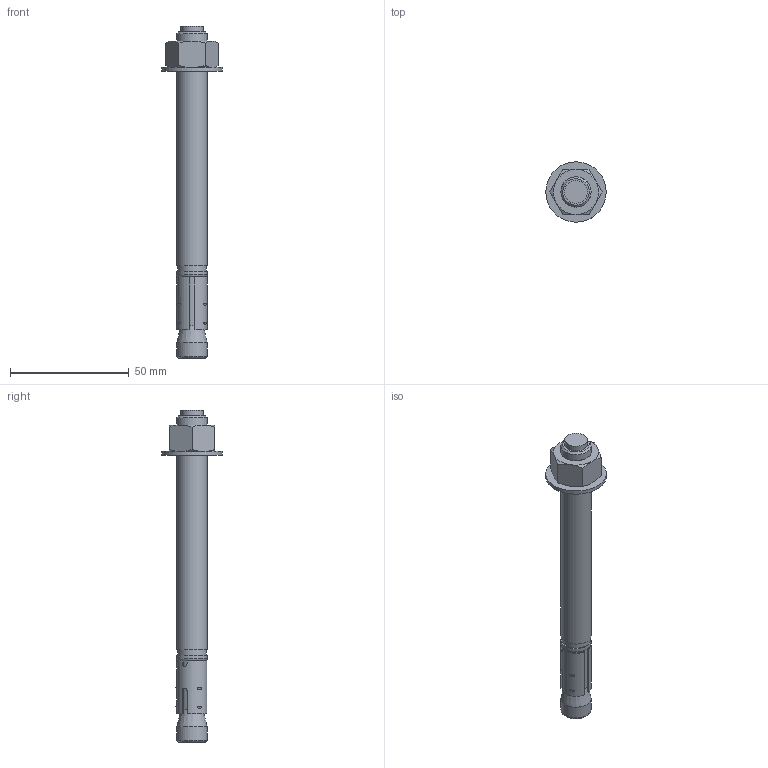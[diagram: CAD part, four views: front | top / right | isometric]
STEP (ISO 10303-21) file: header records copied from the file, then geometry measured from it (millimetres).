
FILE_DESCRIPTION(/* description */ (''),/* implementation_level */ '2;1');
FILE_NAME(/* name */ 'C:\001_Work\Designs\SASE\SASE-0.500 x 5.500 ANCHOR.stp',/* time_stamp */ '2015-10-10T17:13:33-04:00',/* author */ ('rramoutar'),/* organization */ ('Mason Industries Inc.'),/* preprocessor_version */ 'ST-DEVELOPER v15.6',/* originating_system */ 'Autodesk Inventor 2015',/* authorisation */ '');
FILE_SCHEMA (('AUTOMOTIVE_DESIGN { 1 0 10303 214 3 1 1 }'));
Length unit declared in the file: inch
Products named in the file (1): SASE-0.500 x 5.500 ANCHOR
Bounding box: 25.4 x 25.4 x 139.7 mm (x, y, z)
Volume: 19341.6 mm3; surface area: 8456.1 mm2
Topology: 2 solids, 2 shells, 79 faces, 168 edges, 105 vertices
Faces by surface type: plane 39, cone 17, cylinder 15, sphere 6, torus 2
Full cylindrical faces by diameter (mm): 9.525 x2, 11.906 x1, 12.7 x4, 13.487 x1, 25.4 x1
Entity records: 2310 total; most frequent: CARTESIAN_POINT 615, DIRECTION 334, ORIENTED_EDGE 304, EDGE_CURVE 148, AXIS2_PLACEMENT_3D 144, EDGE_LOOP 110, VERTEX_POINT 101, STYLED_ITEM 80
